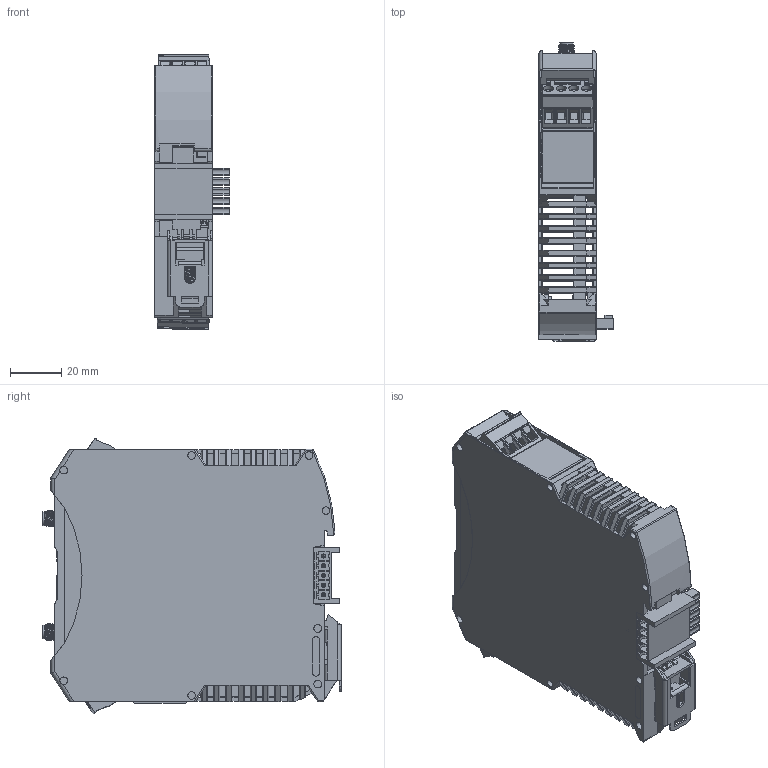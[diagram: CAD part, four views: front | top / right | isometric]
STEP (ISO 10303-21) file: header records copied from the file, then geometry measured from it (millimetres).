
FILE_DESCRIPTION(('STEP AP214'), '1');
FILE_NAME('NLS-Gateway-LoRa-2RS â ñòåïêó', '', ('UNSPECIFIED'), ('UNSPECIFIED'), 'C3D Converter', 'C3D Toolkit', '');
FILE_SCHEMA(('AUTOMOTIVE_DESIGN { 1 0 10303 214 3 1 1}'));
Length unit declared in the file: millimetre
Bounding box: 29.21 x 116.8 x 107.99 mm (x, y, z)
Volume: 67669.5 mm3; surface area: 96929.4 mm2
Topology: 7 solids, 41 shells, 6636 faces, 18378 edges, 12029 vertices
Faces by surface type: plane 3986, cylinder 1259, extrusion 1216, cone 92, bspline 30, torus 27, sphere 22, revolution 4
Full cylindrical faces by diameter (mm): 0.3 x208, 0.4 x34, 0.6 x6, 0.8 x3, 0.9 x20, 0.92 x4, 0.95 x1, 0.953 x2, 1 x22, 1.02 x4, 1.06 x2, 1.1 x1, 1.2 x1, 1.27 x4, 1.35 x4, 1.4 x10, 1.6 x20, 1.7 x12, 2 x9, 2.2 x8, 2.5 x1, 2.6 x6, 2.8 x8, 3 x16, 3.25 x2, 3.796 x8, 4 x8, 4.102 x2, 4.5 x1, 4.521 x2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
Entity records: 285308 total; most frequent: CARTESIAN_POINT 66448, ORIENTED_EDGE 35779, DIRECTION 29358, EDGE_CURVE 17891, VECTOR 13678, VERTEX_POINT 12635, LINE 12462, EDGE_LOOP 8203
